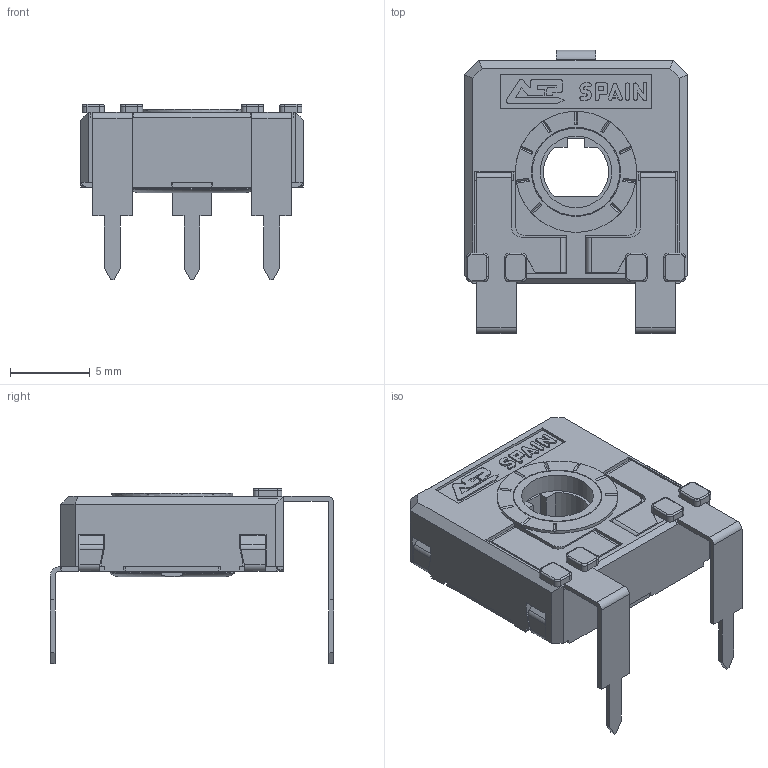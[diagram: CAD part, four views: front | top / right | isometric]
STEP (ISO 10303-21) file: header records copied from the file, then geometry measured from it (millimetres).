
FILE_DESCRIPTION(/* description */ (''),/* implementation_level */ '2;1');
FILE_NAME(/* name */ 'C:\Users\CEM\Desktop\ENVIAR\TRANSICION 3D CATALOGOS\RS14TV17,5.stp',/* time_stamp */ '2025-12-10T11:28:24+01:00',/* author */ ('CEM'),/* organization */ (''),/* preprocessor_version */ 'ST-DEVELOPER v16.13',/* originating_system */ 'Autodesk Inventor 2018',/* authorisation */ '');
FILE_SCHEMA (('AUTOMOTIVE_DESIGN { 1 0 10303 214 3 1 1 }'));
Length unit declared in the file: millimetre
Products named in the file (1): CARCASA CA14 PGA
Bounding box: 14 x 17.8 x 11 mm (x, y, z)
Volume: 528.1 mm3; surface area: 1502 mm2
Topology: 1 solids, 1 shells, 671 faces, 1888 edges, 1214 vertices
Faces by surface type: plane 497, cylinder 137, torus 23, bspline 8, cone 6
Full cylindrical faces by diameter (mm): 4.5 x1, 5.5 x1, 5.6 x1, 5.752 x1, 6.8 x1, 7.6 x1
Entity records: 21719 total; most frequent: CARTESIAN_POINT 3968, ORIENTED_EDGE 3748, DIRECTION 3534, EDGE_CURVE 1874, LINE 1486, VECTOR 1486, VERTEX_POINT 1210, AXIS2_PLACEMENT_3D 1024
